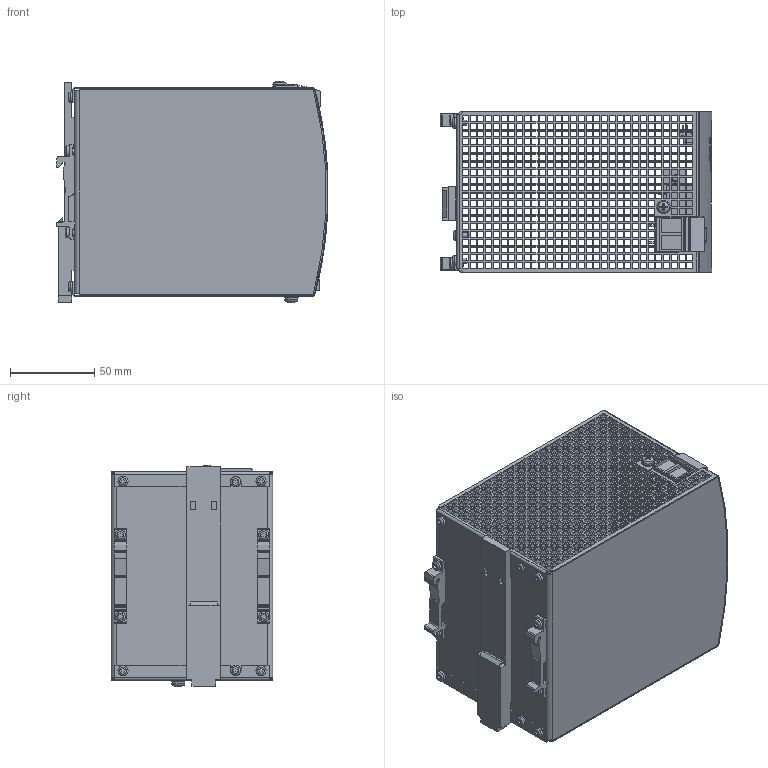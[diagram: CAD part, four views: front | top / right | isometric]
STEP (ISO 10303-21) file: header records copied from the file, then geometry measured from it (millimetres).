
FILE_DESCRIPTION((''),'2;1');
FILE_NAME('C:\Users\rahns\Desktop\Marketing\Proi2\SD1XT40-242SR1_SC_2014-07-09.stp','2014-07-08T14:39:54',('rahns'),(''),'Autodesk Inventor 2009','Autodesk Inventor 2009','');
FILE_SCHEMA(('AUTOMOTIVE_DESIGN { 1 0 10303 214 1 1 1 1 }'));
Length unit declared in the file: millimetre
Products named in the file (15): 353; HOUSING BODY 353; SCREW 3x6; T HOLDER; HOUSING COVER 353; SLIDER SL; FRONTFOIL 353; LED GN; LED YE; LED RD; PRESS SWITCH; TERMINAL 2P R9,52 T; XT-LP2BK-D5; SCREW 4x8; WASHER 4
Assembly tree (27 placements, depth 2):
  353
    HOUSING BODY 353
    SCREW 3x6  x10
    T HOLDER  x2
    HOUSING COVER 353
    SLIDER SL
    FRONTFOIL 353
    LED GN
    LED YE
    LED RD
    PRESS SWITCH
    TERMINAL 2P R9,52 T  x2
    XT-LP2BK-D5
    SCREW 4x8  x2
    WASHER 4  x2
Bounding box: 161.25 x 96 x 131.73 mm (x, y, z)
Volume: 129630.8 mm3; surface area: 200668.2 mm2
Topology: 28 solids, 28 shells, 6182 faces, 17957 edges, 11967 vertices
Faces by surface type: plane 5549, bspline 328, cylinder 247, cone 34, torus 22, sphere 2
Full cylindrical faces by diameter (mm): 0.05 x4, 0.2 x1, 0.5 x1, 0.8 x4, 2.45 x2, 3 x10, 3.1 x4, 3.5 x6, 3.621 x2, 4 x2, 4.2 x1, 4.5 x5, 4.6 x3, 4.8 x1, 5.15 x4, 5.315 x1, 6 x10, 7 x2, 18 x1
Entity records: 203190 total; most frequent: CARTESIAN_POINT 44081, ORIENTED_EDGE 34146, DIRECTION 28234, EDGE_CURVE 17073, VECTOR 15652, LINE 15652, VERTEX_POINT 11403, EDGE_LOOP 8298
